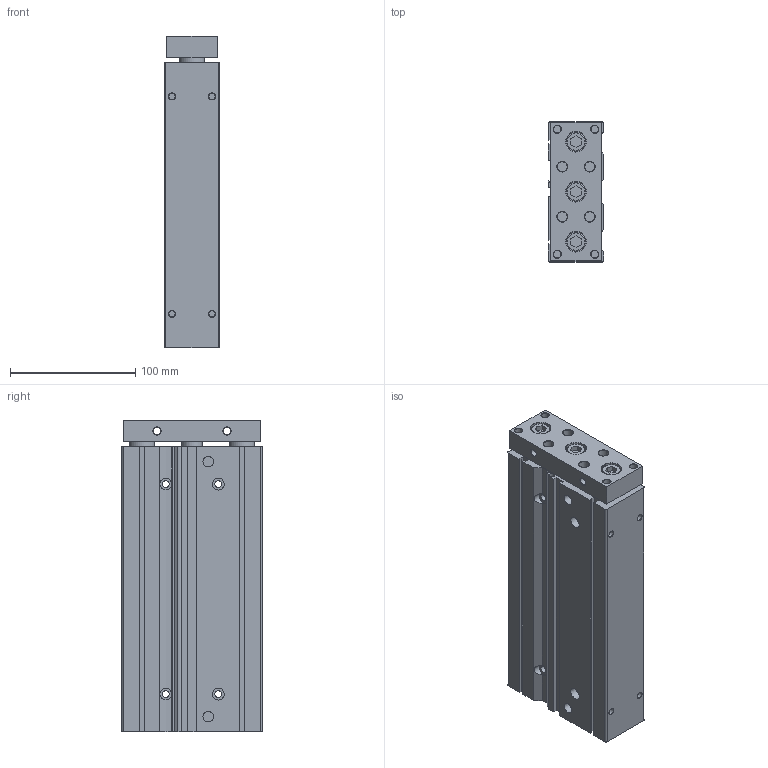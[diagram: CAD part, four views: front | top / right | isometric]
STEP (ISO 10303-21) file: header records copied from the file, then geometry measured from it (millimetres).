
FILE_DESCRIPTION((''),'2;1');
FILE_NAME('Z:\3D電子目錄\氣缸\TB(U)\TB(U)32\TB(U)32\TB32x175.stp','2011-09-22T10:51:55',('admin'),(''),'Autodesk Inventor 2012','Autodesk Inventor 2012','');
FILE_SCHEMA(('AUTOMOTIVE_DESIGN { 1 0 10303 214 1 1 1 1 }'));
Length unit declared in the file: millimetre
Products named in the file (1): TB32X175
Bounding box: 44 x 112 x 249 mm (x, y, z)
Volume: 1118109.3 mm3; surface area: 120685 mm2
Topology: 1 solids, 1 shells, 206 faces, 462 edges, 294 vertices
Faces by surface type: plane 110, cylinder 56, cone 37, torus 3
Full cylindrical faces by diameter (mm): 5 x8, 5.5 x4, 6 x10, 8 x4, 8.5 x2, 9.5 x8, 15 x3, 16 x4, 20 x4, 28 x2, 34 x1
Entity records: 5348 total; most frequent: DIRECTION 944, CARTESIAN_POINT 873, ORIENTED_EDGE 744, EDGE_CURVE 372, AXIS2_PLACEMENT_3D 365, EDGE_LOOP 364, VERTEX_POINT 294, VECTOR 214
